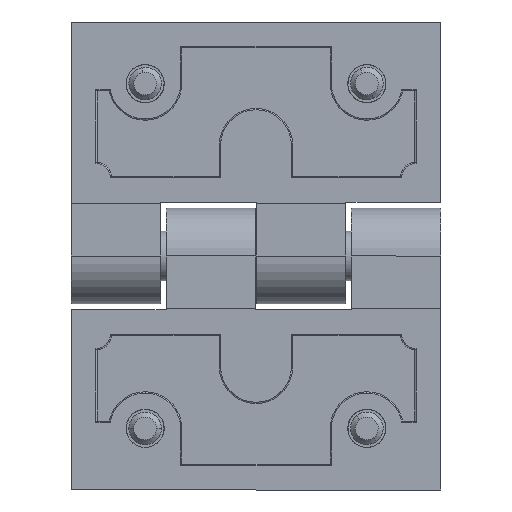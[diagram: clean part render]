
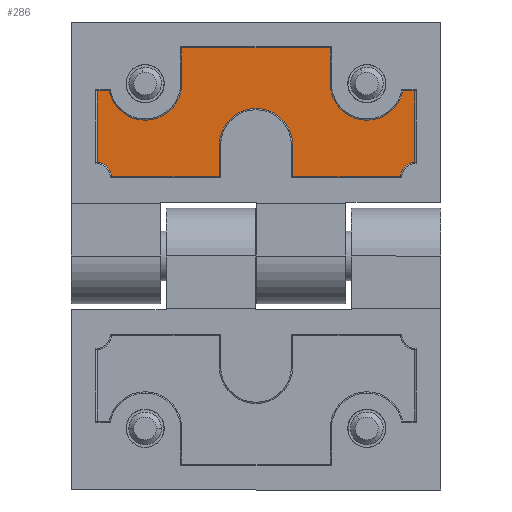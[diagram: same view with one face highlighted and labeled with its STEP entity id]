
A CAD part, front view. The second image highlights one B-rep face of the part: STEP entity #286.
In plain terms, the highlighted planar face has unit normal (0, -1, 0).
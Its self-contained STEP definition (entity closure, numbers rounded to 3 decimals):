
#205 = VERTEX_POINT ( 'NONE', #1013 ) ;
#206 = ORIENTED_EDGE ( 'NONE', *, *, #207, .T. ) ;
#207 = EDGE_CURVE ( 'NONE', #205, #266, #1012, .T. ) ;
#246 = ORIENTED_EDGE ( 'NONE', *, *, #247, .T. ) ;
#247 = EDGE_CURVE ( 'NONE', #330, #248, #1068, .T. ) ;
#248 = VERTEX_POINT ( 'NONE', #1064 ) ;
#249 = ORIENTED_EDGE ( 'NONE', *, *, #250, .T. ) ;
#250 = EDGE_CURVE ( 'NONE', #248, #290, #1063, .T. ) ;
#252 = VERTEX_POINT ( 'NONE', #1058 ) ;
#253 = ORIENTED_EDGE ( 'NONE', *, *, #254, .T. ) ;
#254 = EDGE_CURVE ( 'NONE', #252, #5306, #1057, .T. ) ;
#255 = ORIENTED_EDGE ( 'NONE', *, *, #5305, .T. ) ;
#256 = ORIENTED_EDGE ( 'NONE', *, *, #257, .T. ) ;
#257 = EDGE_CURVE ( 'NONE', #5303, #258, #1115, .T. ) ;
#258 = VERTEX_POINT ( 'NONE', #1110 ) ;
#259 = ORIENTED_EDGE ( 'NONE', *, *, #260, .T. ) ;
#260 = EDGE_CURVE ( 'NONE', #258, #261, #1109, .T. ) ;
#261 = VERTEX_POINT ( 'NONE', #1105 ) ;
#262 = ORIENTED_EDGE ( 'NONE', *, *, #263, .T. ) ;
#263 = EDGE_CURVE ( 'NONE', #261, #264, #1104, .T. ) ;
#264 = VERTEX_POINT ( 'NONE', #1100 ) ;
#265 = ORIENTED_EDGE ( 'NONE', *, *, #323, .T. ) ;
#266 = VERTEX_POINT ( 'NONE', #1099 ) ;
#267 = ORIENTED_EDGE ( 'NONE', *, *, #268, .T. ) ;
#268 = EDGE_CURVE ( 'NONE', #266, #269, #1098, .T. ) ;
#269 = VERTEX_POINT ( 'NONE', #1093 ) ;
#270 = ORIENTED_EDGE ( 'NONE', *, *, #271, .T. ) ;
#271 = EDGE_CURVE ( 'NONE', #269, #272, #1092, .T. ) ;
#272 = VERTEX_POINT ( 'NONE', #1088 ) ;
#273 = ORIENTED_EDGE ( 'NONE', *, *, #274, .T. ) ;
#274 = EDGE_CURVE ( 'NONE', #272, #275, #1087, .T. ) ;
#275 = VERTEX_POINT ( 'NONE', #1147 ) ;
#276 = ORIENTED_EDGE ( 'NONE', *, *, #277, .T. ) ;
#277 = EDGE_CURVE ( 'NONE', #275, #278, #1146, .T. ) ;
#278 = VERTEX_POINT ( 'NONE', #1141 ) ;
#279 = ORIENTED_EDGE ( 'NONE', *, *, #280, .T. ) ;
#280 = EDGE_CURVE ( 'NONE', #278, #252, #1140, .T. ) ;
#286 = ADVANCED_FACE ( 'NONE', ( #1132 ), #1131, .T. ) ;
#287 = EDGE_LOOP ( 'NONE', ( #288, #206, #267, #270, #273, #276, #279, #253, #255, #256, #259, #262, #265, #324, #325, #328, #246, #249 ) ) ;
#288 = ORIENTED_EDGE ( 'NONE', *, *, #289, .T. ) ;
#289 = EDGE_CURVE ( 'NONE', #290, #205, #1129, .T. ) ;
#290 = VERTEX_POINT ( 'NONE', #1122 ) ;
#323 = EDGE_CURVE ( 'NONE', #264, #5244, #1194, .T. ) ;
#324 = ORIENTED_EDGE ( 'NONE', *, *, #5243, .T. ) ;
#325 = ORIENTED_EDGE ( 'NONE', *, *, #326, .T. ) ;
#326 = EDGE_CURVE ( 'NONE', #5241, #327, #1190, .T. ) ;
#327 = VERTEX_POINT ( 'NONE', #1185 ) ;
#328 = ORIENTED_EDGE ( 'NONE', *, *, #329, .T. ) ;
#329 = EDGE_CURVE ( 'NONE', #327, #330, #1184, .T. ) ;
#330 = VERTEX_POINT ( 'NONE', #1179 ) ;
#1009 = DIRECTION ( 'NONE',  ( -1., 0., 0. ) ) ;
#1010 = VECTOR ( 'NONE', #1009, 1000. ) ;
#1011 = CARTESIAN_POINT ( 'NONE',  ( -18., -4., 24.05 ) ) ;
#1012 = LINE ( 'NONE', #1011, #1010 ) ;
#1013 = CARTESIAN_POINT ( 'NONE',  ( -12.9, -4., 24.05 ) ) ;
#1054 = DIRECTION ( 'NONE',  ( 0., 0., -1. ) ) ;
#1055 = VECTOR ( 'NONE', #1054, 1000. ) ;
#1056 = CARTESIAN_POINT ( 'NONE',  ( -26.8, -4., 30. ) ) ;
#1057 = LINE ( 'NONE', #1056, #1055 ) ;
#1058 = CARTESIAN_POINT ( 'NONE',  ( -26.8, -4., 55.8 ) ) ;
#1059 = DIRECTION ( 'NONE',  ( 1., 0., 0. ) ) ;
#1060 = DIRECTION ( 'NONE',  ( 0., 1., 0. ) ) ;
#1061 = CARTESIAN_POINT ( 'NONE',  ( -12.7, -4., 4. ) ) ;
#1062 = AXIS2_PLACEMENT_3D ( 'NONE', #1061, #1060, #1059 ) ;
#1063 = CIRCLE ( 'NONE', #1062, 2.543 ) ;
#1064 = CARTESIAN_POINT ( 'NONE',  ( -15.235, -4., 4.2 ) ) ;
#1065 = DIRECTION ( 'NONE',  ( 1., 0., 0. ) ) ;
#1066 = VECTOR ( 'NONE', #1065, 1000. ) ;
#1067 = CARTESIAN_POINT ( 'NONE',  ( -18., -4., 4.2 ) ) ;
#1068 = LINE ( 'NONE', #1067, #1066 ) ;
#1084 = DIRECTION ( 'NONE',  ( 0., 0., 1. ) ) ;
#1085 = VECTOR ( 'NONE', #1084, 1000. ) ;
#1086 = CARTESIAN_POINT ( 'NONE',  ( -12.9, -4., 30. ) ) ;
#1087 = LINE ( 'NONE', #1086, #1085 ) ;
#1088 = CARTESIAN_POINT ( 'NONE',  ( -12.9, -4., 35.95 ) ) ;
#1089 = DIRECTION ( 'NONE',  ( 1., 0., 0. ) ) ;
#1090 = VECTOR ( 'NONE', #1089, 1000. ) ;
#1091 = CARTESIAN_POINT ( 'NONE',  ( -18., -4., 35.95 ) ) ;
#1092 = LINE ( 'NONE', #1091, #1090 ) ;
#1093 = CARTESIAN_POINT ( 'NONE',  ( -18., -4., 35.95 ) ) ;
#1094 = DIRECTION ( 'NONE',  ( 1., 0., 0. ) ) ;
#1095 = DIRECTION ( 'NONE',  ( 0., 1., 0. ) ) ;
#1096 = CARTESIAN_POINT ( 'NONE',  ( -18., -4., 30. ) ) ;
#1097 = AXIS2_PLACEMENT_3D ( 'NONE', #1096, #1095, #1094 ) ;
#1098 = CIRCLE ( 'NONE', #1097, 5.95 ) ;
#1099 = CARTESIAN_POINT ( 'NONE',  ( -18., -4., 24.05 ) ) ;
#1100 = CARTESIAN_POINT ( 'NONE',  ( -33.8, -4., 17.95 ) ) ;
#1101 = DIRECTION ( 'NONE',  ( 0., 0., -1. ) ) ;
#1102 = VECTOR ( 'NONE', #1101, 1000. ) ;
#1103 = CARTESIAN_POINT ( 'NONE',  ( -33.8, -4., 30. ) ) ;
#1104 = LINE ( 'NONE', #1103, #1102 ) ;
#1105 = CARTESIAN_POINT ( 'NONE',  ( -33.8, -4., 42.05 ) ) ;
#1106 = DIRECTION ( 'NONE',  ( -1., 0., 0. ) ) ;
#1107 = VECTOR ( 'NONE', #1106, 1000. ) ;
#1108 = CARTESIAN_POINT ( 'NONE',  ( -18., -4., 42.05 ) ) ;
#1109 = LINE ( 'NONE', #1108, #1107 ) ;
#1110 = CARTESIAN_POINT ( 'NONE',  ( -28., -4., 42.05 ) ) ;
#1111 = DIRECTION ( 'NONE',  ( 1., 0., 0. ) ) ;
#1112 = DIRECTION ( 'NONE',  ( 0., 1., 0. ) ) ;
#1113 = CARTESIAN_POINT ( 'NONE',  ( -28., -4., 48. ) ) ;
#1114 = AXIS2_PLACEMENT_3D ( 'NONE', #1113, #1112, #1111 ) ;
#1115 = CIRCLE ( 'NONE', #1114, 5.95 ) ;
#1122 = CARTESIAN_POINT ( 'NONE',  ( -12.9, -4., 6.535 ) ) ;
#1123 = DIRECTION ( 'NONE',  ( 0., 0., 1. ) ) ;
#1124 = VECTOR ( 'NONE', #1123, 1000. ) ;
#1125 = CARTESIAN_POINT ( 'NONE',  ( -12.9, -4., 30. ) ) ;
#1126 = DIRECTION ( 'NONE',  ( 1., 0., 0. ) ) ;
#1127 = DIRECTION ( 'NONE',  ( 0., -1., 0. ) ) ;
#1128 = AXIS2_PLACEMENT_3D ( 'NONE', #1130, #1127, #1126 ) ;
#1129 = LINE ( 'NONE', #1125, #1124 ) ;
#1130 = CARTESIAN_POINT ( 'NONE',  ( -18., -4., 30. ) ) ;
#1131 = PLANE ( 'NONE',  #1128 ) ;
#1132 = FACE_OUTER_BOUND ( 'NONE', #287, .T. ) ;
#1137 = DIRECTION ( 'NONE',  ( -1., 0., 0. ) ) ;
#1138 = VECTOR ( 'NONE', #1137, 1000. ) ;
#1139 = CARTESIAN_POINT ( 'NONE',  ( -18., -4., 55.8 ) ) ;
#1140 = LINE ( 'NONE', #1139, #1138 ) ;
#1141 = CARTESIAN_POINT ( 'NONE',  ( -15.235, -4., 55.8 ) ) ;
#1142 = DIRECTION ( 'NONE',  ( 1., 0., 0. ) ) ;
#1143 = DIRECTION ( 'NONE',  ( 0., 1., 0. ) ) ;
#1144 = CARTESIAN_POINT ( 'NONE',  ( -12.7, -4., 56. ) ) ;
#1145 = AXIS2_PLACEMENT_3D ( 'NONE', #1144, #1143, #1142 ) ;
#1146 = CIRCLE ( 'NONE', #1145, 2.543 ) ;
#1147 = CARTESIAN_POINT ( 'NONE',  ( -12.9, -4., 53.465 ) ) ;
#1179 = CARTESIAN_POINT ( 'NONE',  ( -26.8, -4., 4.2 ) ) ;
#1181 = DIRECTION ( 'NONE',  ( 0., 0., -1. ) ) ;
#1182 = VECTOR ( 'NONE', #1181, 1000. ) ;
#1183 = CARTESIAN_POINT ( 'NONE',  ( -26.8, -4., 30. ) ) ;
#1184 = LINE ( 'NONE', #1183, #1182 ) ;
#1185 = CARTESIAN_POINT ( 'NONE',  ( -26.8, -4., 6.172 ) ) ;
#1186 = DIRECTION ( 'NONE',  ( 1., 0., 0. ) ) ;
#1187 = DIRECTION ( 'NONE',  ( 0., 1., 0. ) ) ;
#1188 = CARTESIAN_POINT ( 'NONE',  ( -28., -4., 12. ) ) ;
#1189 = AXIS2_PLACEMENT_3D ( 'NONE', #1188, #1187, #1186 ) ;
#1190 = CIRCLE ( 'NONE', #1189, 5.95 ) ;
#1191 = DIRECTION ( 'NONE',  ( 1., 0., 0. ) ) ;
#1192 = VECTOR ( 'NONE', #1191, 1000. ) ;
#1193 = CARTESIAN_POINT ( 'NONE',  ( -18., -4., 17.95 ) ) ;
#1194 = LINE ( 'NONE', #1193, #1192 ) ;
#3018 = CARTESIAN_POINT ( 'NONE',  ( -28., -4., 17.95 ) ) ;
#3019 = DIRECTION ( 'NONE',  ( 1., 0., 0. ) ) ;
#3020 = DIRECTION ( 'NONE',  ( 0., 1., 0. ) ) ;
#3021 = CARTESIAN_POINT ( 'NONE',  ( -28., -4., 12. ) ) ;
#3022 = AXIS2_PLACEMENT_3D ( 'NONE', #3021, #3020, #3019 ) ;
#3023 = CIRCLE ( 'NONE', #3022, 5.95 ) ;
#3024 = CARTESIAN_POINT ( 'NONE',  ( -22.05, -4., 12. ) ) ;
#3136 = CARTESIAN_POINT ( 'NONE',  ( -26.8, -4., 53.828 ) ) ;
#3137 = DIRECTION ( 'NONE',  ( 1., 0., 0. ) ) ;
#3138 = DIRECTION ( 'NONE',  ( 0., 1., 0. ) ) ;
#3139 = CARTESIAN_POINT ( 'NONE',  ( -28., -4., 48. ) ) ;
#3140 = AXIS2_PLACEMENT_3D ( 'NONE', #3139, #3138, #3137 ) ;
#3141 = CIRCLE ( 'NONE', #3140, 5.95 ) ;
#3142 = CARTESIAN_POINT ( 'NONE',  ( -22.05, -4., 48. ) ) ;
#5241 = VERTEX_POINT ( 'NONE', #3024 ) ;
#5243 = EDGE_CURVE ( 'NONE', #5244, #5241, #3023, .T. ) ;
#5244 = VERTEX_POINT ( 'NONE', #3018 ) ;
#5303 = VERTEX_POINT ( 'NONE', #3142 ) ;
#5305 = EDGE_CURVE ( 'NONE', #5306, #5303, #3141, .T. ) ;
#5306 = VERTEX_POINT ( 'NONE', #3136 ) ;
